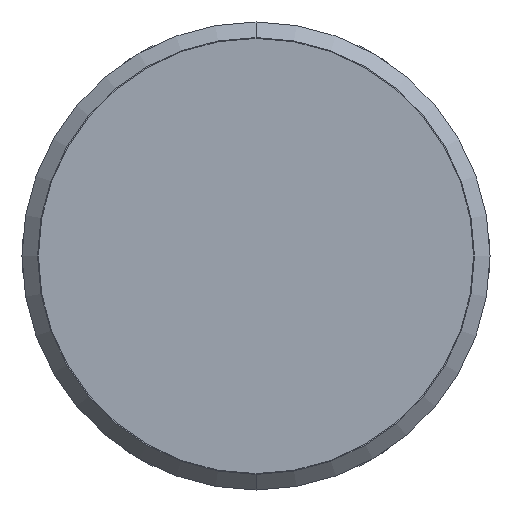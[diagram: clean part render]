
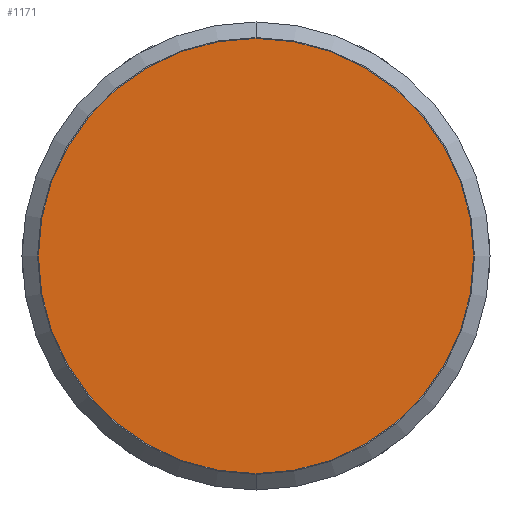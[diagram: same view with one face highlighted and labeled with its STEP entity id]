
A CAD part, front view. The second image highlights one B-rep face of the part: STEP entity #1171.
In plain terms, the highlighted planar face has unit normal (0, -1, 0).
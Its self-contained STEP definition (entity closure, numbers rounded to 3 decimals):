
#13 = CIRCLE ( 'NONE', #290, 13.95 ) ;
#37 = VERTEX_POINT ( 'NONE', #265 ) ;
#40 = EDGE_CURVE ( 'NONE', #1090, #37, #1255, .T. ) ;
#116 = ORIENTED_EDGE ( 'NONE', *, *, #40, .F. ) ;
#124 = CARTESIAN_POINT ( 'NONE',  ( 0., 0., 0. ) ) ;
#131 = CARTESIAN_POINT ( 'NONE',  ( 0., 0., 13.95 ) ) ;
#161 = CARTESIAN_POINT ( 'NONE',  ( 0., 0., 0. ) ) ;
#265 = CARTESIAN_POINT ( 'NONE',  ( 0., 0., -13.95 ) ) ;
#290 = AXIS2_PLACEMENT_3D ( 'NONE', #2002, #1569, #2015 ) ;
#443 = AXIS2_PLACEMENT_3D ( 'NONE', #161, #671, #1331 ) ;
#486 = PLANE ( 'NONE',  #443 ) ;
#574 = AXIS2_PLACEMENT_3D ( 'NONE', #124, #2062, #2073 ) ;
#589 = ORIENTED_EDGE ( 'NONE', *, *, #1446, .F. ) ;
#671 = DIRECTION ( 'NONE',  ( 0., 1., 0. ) ) ;
#1090 = VERTEX_POINT ( 'NONE', #131 ) ;
#1171 = ADVANCED_FACE ( 'NONE', ( #1957 ), #486, .F. ) ;
#1255 = CIRCLE ( 'NONE', #574, 13.95 ) ;
#1331 = DIRECTION ( 'NONE',  ( 0., 0., 1. ) ) ;
#1446 = EDGE_CURVE ( 'NONE', #37, #1090, #13, .T. ) ;
#1569 = DIRECTION ( 'NONE',  ( 0., 1., 0. ) ) ;
#1706 = EDGE_LOOP ( 'NONE', ( #589, #116 ) ) ;
#1957 = FACE_OUTER_BOUND ( 'NONE', #1706, .T. ) ;
#2002 = CARTESIAN_POINT ( 'NONE',  ( 0., 0., 0. ) ) ;
#2015 = DIRECTION ( 'NONE',  ( 0., 0., 1. ) ) ;
#2062 = DIRECTION ( 'NONE',  ( 0., 1., 0. ) ) ;
#2073 = DIRECTION ( 'NONE',  ( 0., 0., 1. ) ) ;
